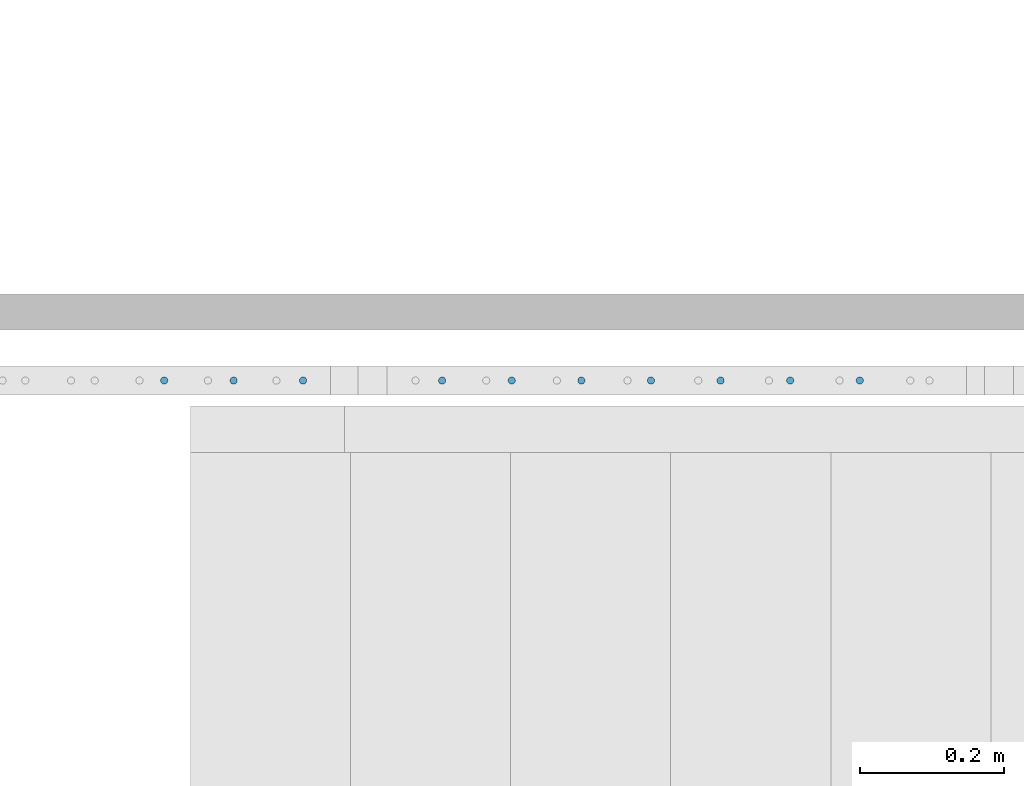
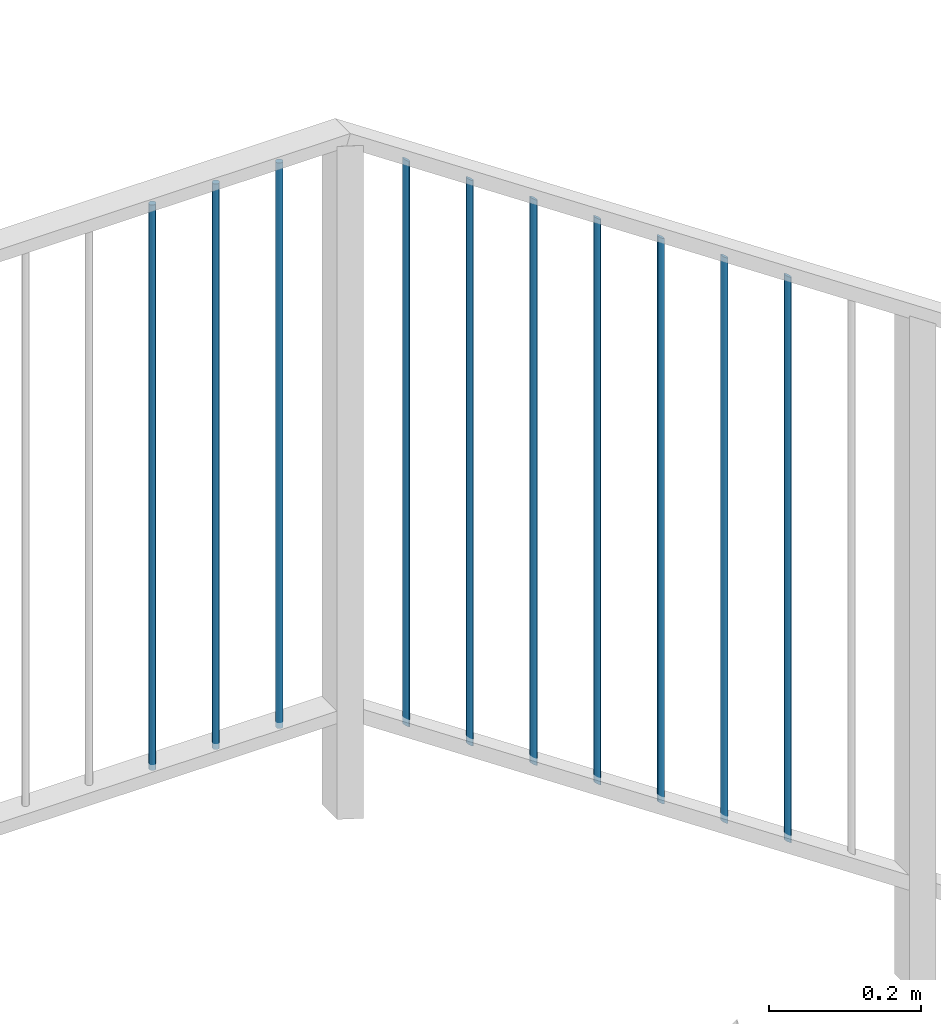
# One storey, part 30 of 135: 10 members, 1 element without a shape of its own.
"""IFC2X3 building model written with IfcOpenShell, lengths in millimetres."""

from ifc_helpers import new_model, entity, si_unit, converted_unit, derived_unit, money_unit, direction, frame, origin_with_axes, place, context, subcontext, project, spatial, faceted_brep, source, transform, mapped, material, type_object, type_shapes, element, aggregate, save


model = new_model("IFC2X3")

# Units and contexts
model_context = context("Model", 3, precision=0.01, world=origin_with_axes(), true_north=direction((0.0, 1.0)))
body_context = subcontext(model_context, "Body", "Model", "MODEL_VIEW")
ifc_project = project(units=[si_unit("LENGTHUNIT", "METRE", prefix="MILLI"), si_unit("AREAUNIT", "SQUARE_METRE"), si_unit("VOLUMEUNIT", "CUBIC_METRE"), converted_unit("PLANEANGLEUNIT", "DEGREE", entity("IfcPlaneAngleMeasure", 0.0174532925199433), si_unit("PLANEANGLEUNIT", "RADIAN"), dimensions=[0, 0, 0, 0, 0, 0, 0]), money_unit("EUR"), converted_unit("TIMEUNIT", "Year", entity("IfcTimeMeasure", 31557600.0), si_unit("TIMEUNIT", "SECOND"), dimensions=[0, 0, 1, 0, 0, 0, 0]), si_unit("MASSUNIT", "GRAM", prefix="KILO"), si_unit("THERMODYNAMICTEMPERATUREUNIT", "DEGREE_CELSIUS"), si_unit("LUMINOUSINTENSITYUNIT", "LUMEN"), si_unit("ENERGYUNIT", "JOULE", prefix="MEGA"), derived_unit("THERMALCONDUCTANCEUNIT", [(si_unit("POWERUNIT", "WATT"), 1), (si_unit("LENGTHUNIT", "METRE"), -1), (si_unit("THERMODYNAMICTEMPERATUREUNIT", "KELVIN"), -1)]), derived_unit("SPECIFICHEATCAPACITYUNIT", [(si_unit("ENERGYUNIT", "JOULE"), 1), (si_unit("MASSUNIT", "GRAM", prefix="KILO"), -1), (si_unit("THERMODYNAMICTEMPERATUREUNIT", "KELVIN"), -1)]), derived_unit("MASSDENSITYUNIT", [(si_unit("MASSUNIT", "GRAM", prefix="KILO"), 1), (si_unit("VOLUMEUNIT", "CUBIC_METRE"), -1)])], contexts=[model_context])

# Site, building, storey
site_placement = place(None, origin_with_axes())
site = spatial("IfcSite", under=ifc_project, at=site_placement, Name="Site", CompositionType="ELEMENT")
building_placement = place(site_placement, origin_with_axes())
building = spatial("IfcBuilding", under=site, at=building_placement, Name="Naam gebouw", CompositionType="ELEMENT")
storey_placement = place(building_placement, origin_with_axes())
storey = spatial("IfcBuildingStorey", under=building, at=storey_placement, Name="Begane grond N", CompositionType="ELEMENT", Elevation=0.0)

# Railing, members
railing_type = type_object("IfcRailingType", Name="Railing Type", PredefinedType="NOTDEFINED")
railing_placement = place(storey_placement, frame((56236.62159597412, 21185.9124251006, 4176.0), z_axis=(0.0, 0.0, 1.0), x_axis=(1.0, 0.0, 0.0)))
railing = element("IfcRailing", 1, at=railing_placement, inside=storey, type_object=railing_type, Name="_Reling-x", PredefinedType="NOTDEFINED")
ifc_material = material(Name="Metaal - Staal C")
member_type = type_object("IfcMemberType", Name="IfcMember", PredefinedType="MEMBER")
shared_shape_1 = source(origin_with_axes(), body_context, "Body", "Brep", [
    faceted_brep([(0.0, -5.0, -3.357180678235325), (0.8682408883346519, -4.92403876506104, -3.306177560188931), (0.8682408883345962, -4.92403876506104, 904.19382243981), (0.0, -5.0, 904.1428193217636), (-0.8682408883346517, -4.92403876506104, -3.306177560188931), (-1.710100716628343, -4.698463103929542, -3.154717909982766), (-2.500000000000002, -4.330127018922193, -2.907403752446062), (-3.213938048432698, -3.830222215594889, -2.571749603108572), (-3.830222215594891, -3.213938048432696, -2.15795414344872), (-4.330127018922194, -2.5, -1.678590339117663), (-4.698463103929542, -1.710100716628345, -1.148223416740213), (-4.924038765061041, -0.86824088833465, -0.5829683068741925), (-5.0, 0.0, 0.0), (-4.92403876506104, 0.8682408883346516, 0.5829683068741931), (-4.698463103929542, 1.710100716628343, 1.148223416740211), (-4.330127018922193, 2.500000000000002, 1.678590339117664), (-3.83022221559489, 3.213938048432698, 2.15795414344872), (-3.213938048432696, 3.83022221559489, 2.571749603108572), (-2.5, 4.330127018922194, 2.907403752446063), (-1.710100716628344, 4.698463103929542, 3.154717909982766), (-0.8682408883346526, 4.92403876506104, 3.306177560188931), (0.0, 5.0, 3.357180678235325), (0.8682408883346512, 4.92403876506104, 3.306177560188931), (1.710100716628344, 4.698463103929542, 3.154717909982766), (2.5, 4.330127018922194, 2.907403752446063), (3.213938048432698, 3.83022221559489, 2.571749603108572), (3.83022221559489, 3.213938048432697, 2.15795414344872), (4.330127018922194, 2.499999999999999, 1.678590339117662), (4.698463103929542, 1.710100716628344, 1.148223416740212), (4.92403876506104, 0.8682408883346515, 0.5829683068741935), (5.0, 0.0, 0.0), (4.92403876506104, -0.8682408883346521, -0.5829683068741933), (4.698463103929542, -1.710100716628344, -1.148223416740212), (4.330127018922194, -2.5, -1.678590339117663), (3.83022221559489, -3.213938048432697, -2.157954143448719), (3.213938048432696, -3.83022221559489, -2.571749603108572), (2.5, -4.330127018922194, -2.907403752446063), (1.710100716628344, -4.698463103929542, -3.154717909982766), (1.710100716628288, -4.698463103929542, 904.3452820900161), (2.499999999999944, -4.330127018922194, 904.5925962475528), (3.213938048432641, -3.83022221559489, 904.9282503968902), (3.830222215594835, -3.213938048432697, 905.3420458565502), (4.330127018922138, -2.5, 905.8214096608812), (4.698463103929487, -1.710100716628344, 906.3517765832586), (4.924038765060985, -0.8682408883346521, 906.9170316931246), (4.999999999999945, 0.0, 907.4999999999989), (4.924038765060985, 0.8682408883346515, 908.0829683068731), (4.698463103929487, 1.710100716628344, 908.6482234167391), (4.330127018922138, 2.499999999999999, 909.1785903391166), (3.830222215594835, 3.213938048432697, 909.6579541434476), (3.213938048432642, 3.83022221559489, 910.0717496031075), (2.499999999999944, 4.330127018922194, 910.4074037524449), (1.710100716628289, 4.698463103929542, 910.6547179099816), (0.8682408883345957, 4.92403876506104, 910.8061775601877), (0.0, 5.0, 910.8571806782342), (-0.8682408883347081, 4.92403876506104, 910.8061775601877), (-1.710100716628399, 4.698463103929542, 910.6547179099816), (-2.500000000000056, 4.330127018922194, 910.4074037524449), (-3.213938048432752, 3.83022221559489, 910.0717496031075), (-3.830222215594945, 3.213938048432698, 909.6579541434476), (-4.330127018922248, 2.500000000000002, 909.1785903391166), (-4.698463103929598, 1.710100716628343, 908.6482234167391), (-4.924038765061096, 0.8682408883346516, 908.0829683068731), (-5.000000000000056, 0.0, 907.4999999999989), (-4.924038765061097, -0.86824088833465, 906.9170316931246), (-4.698463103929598, -1.710100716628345, 906.3517765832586), (-4.330127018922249, -2.5, 905.8214096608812), (-3.830222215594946, -3.213938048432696, 905.3420458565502), (-3.213938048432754, -3.830222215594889, 904.9282503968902), (-2.500000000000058, -4.330127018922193, 904.5925962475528), (-1.710100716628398, -4.698463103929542, 904.3452820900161), (-0.8682408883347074, -4.92403876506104, 904.19382243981)], [[[0, 1, 2, 3]], [[0, 4, 5, 6, 7, 8, 9, 10, 11, 12, 13, 14, 15, 16, 17, 18, 19, 20, 21, 22, 23, 24, 25, 26, 27, 28, 29, 30, 31, 32, 33, 34, 35, 36, 37, 1]], [[1, 37, 38, 2]], [[3, 2, 38, 39, 40, 41, 42, 43, 44, 45, 46, 47, 48, 49, 50, 51, 52, 53, 54, 55, 56, 57, 58, 59, 60, 61, 62, 63, 64, 65, 66, 67, 68, 69, 70, 71]], [[4, 0, 3, 71]], [[5, 4, 71, 70]], [[6, 5, 70, 69]], [[7, 6, 69, 68]], [[8, 7, 68, 67]], [[9, 8, 67, 66]], [[10, 9, 66, 65]], [[11, 10, 65, 64]], [[12, 11, 64, 63]], [[13, 12, 63, 62]], [[14, 13, 62, 61]], [[15, 14, 61, 60]], [[16, 15, 60, 59]], [[17, 16, 59, 58]], [[18, 17, 58, 57]], [[19, 18, 57, 56]], [[20, 19, 56, 55]], [[21, 20, 55, 54]], [[22, 21, 54, 53]], [[23, 22, 53, 52]], [[24, 23, 52, 51]], [[25, 24, 51, 50]], [[26, 25, 50, 49]], [[27, 26, 49, 48]], [[28, 27, 48, 47]], [[29, 28, 47, 46]], [[30, 29, 46, 45]], [[31, 30, 45, 44]], [[32, 31, 44, 43]], [[33, 32, 43, 42]], [[34, 33, 42, 41]], [[35, 34, 41, 40]], [[36, 35, 40, 39]], [[37, 36, 39, 38]]]),
])
member_1_placement = place(railing_placement, frame((816.1339110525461, 2465.000000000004, 3103.007772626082), z_axis=(0.0, 0.0, 1.0), x_axis=(1.0, 0.0, 0.0)))
member_1 = element("IfcMember", 2, at=member_1_placement, type_object=member_type, material=ifc_material, Name="_Spijlen-x", ObjectType="MEMBER", context=body_context, shape_type="MappedRepresentation", body=[
    mapped(shared_shape_1, transform((0.0, 0.0, 0.0), x_axis=(0.0, 1.0, 0.0), y_axis=(-1.0, 0.0, 0.0), z_axis=(0.0, 0.0, 1.0))),
])
member_2_placement = place(railing_placement, frame((623.0650408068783, 2465.000000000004, 3232.641188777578), z_axis=(0.0, 0.0, 1.0), x_axis=(1.0, 0.0, 0.0)))
member_2 = element("IfcMember", 3, at=member_2_placement, type_object=member_type, material=ifc_material, Name="_Spijlen-x", ObjectType="MEMBER", context=body_context, shape_type="MappedRepresentation", body=[
    mapped(shared_shape_1, transform((0.0, 0.0, 0.0), x_axis=(0.0, 1.0, 0.0), y_axis=(-1.0, 0.0, 0.0), z_axis=(0.0, 0.0, 1.0))),
])
member_3_placement = place(railing_placement, frame((719.5994759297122, 2465.000000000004, 3167.82448070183), z_axis=(0.0, 0.0, 1.0), x_axis=(1.0, 0.0, 0.0)))
member_3 = element("IfcMember", 4, at=member_3_placement, type_object=member_type, material=ifc_material, Name="_Spijlen-x", ObjectType="MEMBER", context=body_context, shape_type="MappedRepresentation", body=[
    mapped(shared_shape_1, transform((0.0, 0.0, 0.0), x_axis=(0.0, 1.0, 0.0), y_axis=(-1.0, 0.0, 0.0), z_axis=(0.0, 0.0, 1.0))),
])
member_4_placement = place(railing_placement, frame((429.9961705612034, 2465.000000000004, 3362.274604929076), z_axis=(0.0, 0.0, 1.0), x_axis=(1.0, 0.0, 0.0)))
member_4 = element("IfcMember", 5, at=member_4_placement, type_object=member_type, material=ifc_material, Name="_Spijlen-x", ObjectType="MEMBER", context=body_context, shape_type="MappedRepresentation", body=[
    mapped(shared_shape_1, transform((0.0, 0.0, 0.0), x_axis=(0.0, 1.0, 0.0), y_axis=(-1.0, 0.0, 0.0), z_axis=(0.0, 0.0, 1.0))),
])
member_5_placement = place(railing_placement, frame((526.5306056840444, 2465.000000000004, 3297.457896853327), z_axis=(0.0, 0.0, 1.0), x_axis=(1.0, 0.0, 0.0)))
member_5 = element("IfcMember", 6, at=member_5_placement, type_object=member_type, material=ifc_material, Name="_Spijlen-x", ObjectType="MEMBER", context=body_context, shape_type="MappedRepresentation", body=[
    mapped(shared_shape_1, transform((0.0, 0.0, 0.0), x_axis=(0.0, 1.0, 0.0), y_axis=(-1.0, 0.0, 0.0), z_axis=(0.0, 0.0, 1.0))),
])
member_6_placement = place(railing_placement, frame((333.4617354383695, 2465.000000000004, 3427.091313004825), z_axis=(0.0, 0.0, 1.0), x_axis=(1.0, 0.0, 0.0)))
member_6 = element("IfcMember", 7, at=member_6_placement, type_object=member_type, material=ifc_material, Name="_Spijlen-x", ObjectType="MEMBER", context=body_context, shape_type="MappedRepresentation", body=[
    mapped(shared_shape_1, transform((0.0, 0.0, 0.0), x_axis=(0.0, 1.0, 0.0), y_axis=(-1.0, 0.0, 0.0), z_axis=(0.0, 0.0, 1.0))),
])
member_7_placement = place(railing_placement, frame((236.9273003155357, 2465.000000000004, 3491.908021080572), z_axis=(0.0, 0.0, 1.0), x_axis=(1.0, 0.0, 0.0)))
member_7 = element("IfcMember", 8, at=member_7_placement, type_object=member_type, material=ifc_material, Name="_Spijlen-x", ObjectType="MEMBER", context=body_context, shape_type="MappedRepresentation", body=[
    mapped(shared_shape_1, transform((0.0, 0.0, 0.0), x_axis=(0.0, 1.0, 0.0), y_axis=(-1.0, 0.0, 0.0), z_axis=(0.0, 0.0, 1.0))),
])
shared_shape_2 = source(origin_with_axes(), body_context, "Body", "Brep", [
    faceted_brep([(0.0, -5.000000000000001, 0.0003083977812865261), (0.8682408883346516, -4.924038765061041, 0.0003037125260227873), (0.868240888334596, -4.924038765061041, 907.5003037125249), (0.0, -5.000000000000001, 907.5003083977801), (-0.868240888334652, -4.924038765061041, 0.000303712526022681), (-1.710100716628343, -4.698463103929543, 0.0002897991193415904), (-2.500000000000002, -4.330127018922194, 0.0002670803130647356), (-3.213938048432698, -3.83022221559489, 0.0002362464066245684), (-3.830222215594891, -3.213938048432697, 0.0001982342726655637), (-4.330127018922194, -2.500000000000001, 0.0001541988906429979), (-4.698463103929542, -1.710100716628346, 0.0001054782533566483), (-4.924038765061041, -0.8682408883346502, 5.355271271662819e-05), (-5.0, 0.0, 0.0), (-4.92403876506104, 0.8682408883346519, -5.355271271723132e-05), (-4.698463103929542, 1.710100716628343, -0.0001054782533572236), (-4.330127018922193, 2.500000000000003, -0.0001541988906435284), (-3.83022221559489, 3.213938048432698, -0.0001982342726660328), (-3.213938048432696, 3.830222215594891, -0.0002362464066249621), (-2.5, 4.330127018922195, -0.0002670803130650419), (-1.710100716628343, 4.698463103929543, -0.0002897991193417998), (-0.8682408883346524, 4.924038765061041, -0.0003037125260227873), (0.0, 5.000000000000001, -0.0003083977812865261), (0.8682408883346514, 4.924038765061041, -0.000303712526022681), (1.710100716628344, 4.698463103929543, -0.0002897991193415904), (2.5, 4.330127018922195, -0.0002670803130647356), (3.213938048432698, 3.83022221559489, -0.0002362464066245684), (3.83022221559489, 3.213938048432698, -0.0001982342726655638), (4.330127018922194, 2.499999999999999, -0.0001541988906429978), (4.698463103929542, 1.710100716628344, -0.0001054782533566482), (4.92403876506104, 0.8682408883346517, -5.355271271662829e-05), (5.0, 0.0, 0.0), (4.92403876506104, -0.8682408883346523, 5.355271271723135e-05), (4.698463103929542, -1.710100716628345, 0.0001054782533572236), (4.330127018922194, -2.500000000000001, 0.0001541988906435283), (3.83022221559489, -3.213938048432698, 0.0001982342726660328), (3.213938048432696, -3.830222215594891, 0.0002362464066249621), (2.5, -4.330127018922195, 0.0002670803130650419), (1.710100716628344, -4.698463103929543, 0.0002897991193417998), (1.710100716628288, -4.698463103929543, 907.5002897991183), (2.499999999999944, -4.330127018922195, 907.5002670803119), (3.213938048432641, -3.830222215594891, 907.5002362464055), (3.830222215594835, -3.213938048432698, 907.5001982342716), (4.330127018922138, -2.500000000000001, 907.5001541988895), (4.698463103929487, -1.710100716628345, 907.5001054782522), (4.924038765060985, -0.8682408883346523, 907.5000535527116), (4.999999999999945, 0.0, 907.4999999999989), (4.924038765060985, 0.8682408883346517, 907.4999464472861), (4.698463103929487, 1.710100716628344, 907.4998945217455), (4.330127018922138, 2.499999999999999, 907.4998458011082), (3.830222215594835, 3.213938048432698, 907.4998017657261), (3.213938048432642, 3.83022221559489, 907.4997637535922), (2.499999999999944, 4.330127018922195, 907.4997329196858), (1.710100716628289, 4.698463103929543, 907.4997102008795), (0.8682408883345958, 4.924038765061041, 907.4996962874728), (0.0, 5.000000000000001, 907.4996916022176), (-0.868240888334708, 4.924038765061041, 907.4996962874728), (-1.710100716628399, 4.698463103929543, 907.4997102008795), (-2.500000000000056, 4.330127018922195, 907.4997329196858), (-3.213938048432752, 3.830222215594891, 907.4997637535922), (-3.830222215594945, 3.213938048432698, 907.4998017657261), (-4.330127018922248, 2.500000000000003, 907.4998458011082), (-4.698463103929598, 1.710100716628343, 907.4998945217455), (-4.924038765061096, 0.8682408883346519, 907.4999464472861), (-5.000000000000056, 0.0, 907.4999999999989), (-4.924038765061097, -0.8682408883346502, 907.5000535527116), (-4.698463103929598, -1.710100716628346, 907.5001054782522), (-4.330127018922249, -2.500000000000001, 907.5001541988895), (-3.830222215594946, -3.213938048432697, 907.5001982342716), (-3.213938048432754, -3.83022221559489, 907.5002362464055), (-2.500000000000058, -4.330127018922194, 907.5002670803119), (-1.710100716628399, -4.698463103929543, 907.5002897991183), (-0.8682408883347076, -4.924038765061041, 907.5003037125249)], [[[0, 1, 2, 3]], [[0, 4, 5, 6, 7, 8, 9, 10, 11, 12, 13, 14, 15, 16, 17, 18, 19, 20, 21, 22, 23, 24, 25, 26, 27, 28, 29, 30, 31, 32, 33, 34, 35, 36, 37, 1]], [[1, 37, 38, 2]], [[3, 2, 38, 39, 40, 41, 42, 43, 44, 45, 46, 47, 48, 49, 50, 51, 52, 53, 54, 55, 56, 57, 58, 59, 60, 61, 62, 63, 64, 65, 66, 67, 68, 69, 70, 71]], [[4, 0, 3, 71]], [[5, 4, 71, 70]], [[6, 5, 70, 69]], [[7, 6, 69, 68]], [[8, 7, 68, 67]], [[9, 8, 67, 66]], [[10, 9, 66, 65]], [[11, 10, 65, 64]], [[12, 11, 64, 63]], [[13, 12, 63, 62]], [[14, 13, 62, 61]], [[15, 14, 61, 60]], [[16, 15, 60, 59]], [[17, 16, 59, 58]], [[18, 17, 58, 57]], [[19, 18, 57, 56]], [[20, 19, 56, 55]], [[21, 20, 55, 54]], [[22, 21, 54, 53]], [[23, 22, 53, 52]], [[24, 23, 52, 51]], [[25, 24, 51, 50]], [[26, 25, 50, 49]], [[27, 26, 49, 48]], [[28, 27, 48, 47]], [[29, 28, 47, 46]], [[30, 29, 46, 45]], [[31, 30, 45, 44]], [[32, 31, 44, 43]], [[33, 32, 43, 42]], [[34, 33, 42, 41]], [[35, 34, 41, 40]], [[36, 35, 40, 39]], [[37, 36, 39, 38]]]),
])
type_shapes(member_type, [shared_shape_1, shared_shape_2])
member_8_placement = place(railing_placement, frame((44.09704215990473, 2465.000000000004, 3556.718789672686), z_axis=(0.0, 0.0, 1.0), x_axis=(1.0, 0.0, 0.0)))
member_8 = element("IfcMember", 9, at=member_8_placement, type_object=member_type, material=ifc_material, Name="_Spijlen-x", ObjectType="MEMBER", context=body_context, shape_type="MappedRepresentation", body=[
    mapped(shared_shape_2, transform((0.0, 0.0, 0.0), x_axis=(0.0, 1.0, 0.0), y_axis=(-1.0, 0.0, 0.0), z_axis=(0.0, 0.0, 1.0))),
])
member_9_placement = place(railing_placement, frame((-52.19878087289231, 2465.000000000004, 3556.712850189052), z_axis=(0.0, 0.0, 1.0), x_axis=(1.0, 0.0, 0.0)))
member_9 = element("IfcMember", 10, at=member_9_placement, type_object=member_type, material=ifc_material, Name="_Spijlen-x", ObjectType="MEMBER", context=body_context, shape_type="MappedRepresentation", body=[
    mapped(shared_shape_2, transform((0.0, 0.0, 0.0), x_axis=(0.0, 1.0, 0.0), y_axis=(-1.0, 0.0, 0.0), z_axis=(0.0, 0.0, 1.0))),
])
member_10_placement = place(railing_placement, frame((-148.4946039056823, 2465.000000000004, 3556.706910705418), z_axis=(0.0, 0.0, 1.0), x_axis=(1.0, 0.0, 0.0)))
member_10 = element("IfcMember", 11, at=member_10_placement, type_object=member_type, material=ifc_material, Name="_Spijlen-x", ObjectType="MEMBER", context=body_context, shape_type="MappedRepresentation", body=[
    mapped(shared_shape_2, transform((0.0, 0.0, 0.0), x_axis=(0.0, 1.0, 0.0), y_axis=(-1.0, 0.0, 0.0), z_axis=(0.0, 0.0, 1.0))),
])
aggregate(railing, [member_1, member_2, member_3, member_4, member_5, member_6, member_7, member_8, member_9, member_10])

save(model, "model.ifc")
